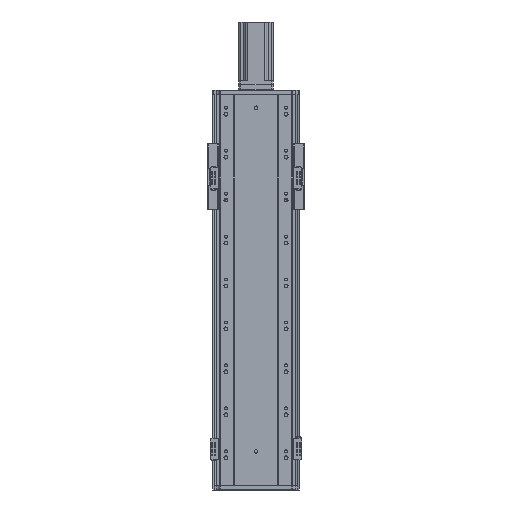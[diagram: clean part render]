
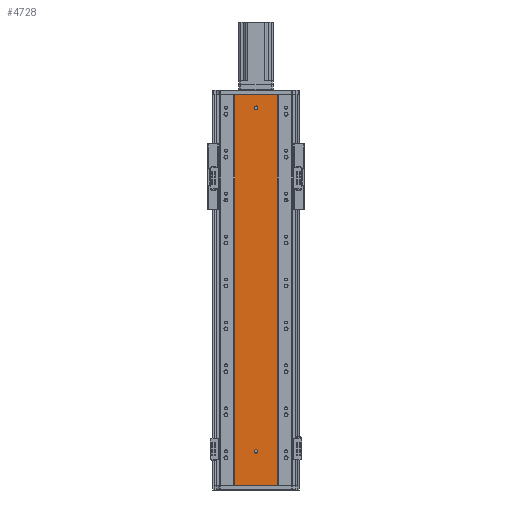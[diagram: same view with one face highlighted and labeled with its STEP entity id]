
A CAD part, front view. The second image highlights one B-rep face of the part: STEP entity #4728.
In plain terms, the highlighted planar face has unit normal (0, -1, 0).
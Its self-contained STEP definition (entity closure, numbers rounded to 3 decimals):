
#1284 = CARTESIAN_POINT ( 'NONE',  ( 185.97, 79.476, 0. ) ) ;
#1292 = CARTESIAN_POINT ( 'NONE',  ( 185.97, 79.476, 910. ) ) ;
#1342 = CARTESIAN_POINT ( 'NONE',  ( 86.97, 79.476, 910. ) ) ;
#1352 = CARTESIAN_POINT ( 'NONE',  ( 86.97, 79.476, 0. ) ) ;
#4728 = ADVANCED_FACE ( 'NONE', ( #41032, #41023, #41026 ), #6083, .F. ) ;
#5366 = VERTEX_POINT ( 'NONE', #1284 ) ;
#5386 = VERTEX_POINT ( 'NONE', #1292 ) ;
#5437 = VERTEX_POINT ( 'NONE', #1352 ) ;
#5454 = VERTEX_POINT ( 'NONE', #1342 ) ;
#6053 = DIRECTION ( 'NONE',  ( 0., 1., 0. ) ) ;
#6075 = CARTESIAN_POINT ( 'NONE',  ( 0., 79.476, 910. ) ) ;
#6083 = PLANE ( 'NONE',  #34578 ) ;
#6094 = DIRECTION ( 'NONE',  ( 0., 0., 1. ) ) ;
#7233 = B_SPLINE_CURVE_WITH_KNOTS ( 'NONE', 3,
 ( #35702, #35705, #35667, #35668 ),
 .UNSPECIFIED., .F., .F.,
 ( 4, 4 ),
 ( 0., 1. ),
 .UNSPECIFIED. ) ;
#7267 = B_SPLINE_CURVE_WITH_KNOTS ( 'NONE', 3,
 ( #35671, #35690, #35676, #35683 ),
 .UNSPECIFIED., .F., .F.,
 ( 4, 4 ),
 ( 0., 1. ),
 .UNSPECIFIED. ) ;
#8103 = EDGE_LOOP ( 'NONE', ( #16102, #17237 ) ) ;
#8117 = EDGE_LOOP ( 'NONE', ( #17266, #17241 ) ) ;
#8123 = EDGE_LOOP ( 'NONE', ( #16098, #16073, #16087, #16070 ) ) ;
#11639 = EDGE_CURVE ( 'NONE', #24763, #24664, #21205, .T. ) ;
#13092 = DIRECTION ( 'NONE',  ( 0., 0., -1. ) ) ;
#13107 = CARTESIAN_POINT ( 'NONE',  ( 136.47, 79.476, 880. ) ) ;
#13108 = DIRECTION ( 'NONE',  ( 0., -1., 0. ) ) ;
#13132 = DIRECTION ( 'NONE',  ( 0., -1., 0. ) ) ;
#13161 = CARTESIAN_POINT ( 'NONE',  ( 136.47, 79.476, 80. ) ) ;
#13166 = DIRECTION ( 'NONE',  ( 0., 0., -1. ) ) ;
#16070 = ORIENTED_EDGE ( 'NONE', *, *, #22908, .T. ) ;
#16073 = ORIENTED_EDGE ( 'NONE', *, *, #22913, .F. ) ;
#16087 = ORIENTED_EDGE ( 'NONE', *, *, #22921, .F. ) ;
#16098 = ORIENTED_EDGE ( 'NONE', *, *, #22832, .T. ) ;
#16102 = ORIENTED_EDGE ( 'NONE', *, *, #11639, .F. ) ;
#17237 = ORIENTED_EDGE ( 'NONE', *, *, #30363, .F. ) ;
#17241 = ORIENTED_EDGE ( 'NONE', *, *, #30339, .F. ) ;
#17266 = ORIENTED_EDGE ( 'NONE', *, *, #22895, .F. ) ;
#21205 = CIRCLE ( 'NONE', #37880, 4. ) ;
#22832 = EDGE_CURVE ( 'NONE', #5437, #5366, #40607, .T. ) ;
#22895 = EDGE_CURVE ( 'NONE', #24730, #24740, #40763, .T. ) ;
#22908 = EDGE_CURVE ( 'NONE', #5454, #5437, #7267, .T. ) ;
#22913 = EDGE_CURVE ( 'NONE', #5386, #5366, #7233, .T. ) ;
#22921 = EDGE_CURVE ( 'NONE', #5454, #5386, #40776, .T. ) ;
#23222 = CIRCLE ( 'NONE', #35629, 4. ) ;
#23298 = CIRCLE ( 'NONE', #35709, 4. ) ;
#24471 = CARTESIAN_POINT ( 'NONE',  ( 136.47, 79.476, 80. ) ) ;
#24543 = DIRECTION ( 'NONE',  ( 0., -1., 0. ) ) ;
#24544 = DIRECTION ( 'NONE',  ( 0., 0., -1. ) ) ;
#24664 = VERTEX_POINT ( 'NONE', #26474 ) ;
#24730 = VERTEX_POINT ( 'NONE', #26511 ) ;
#24740 = VERTEX_POINT ( 'NONE', #26523 ) ;
#24763 = VERTEX_POINT ( 'NONE', #26499 ) ;
#26474 = CARTESIAN_POINT ( 'NONE',  ( 136.47, 79.476, 84. ) ) ;
#26499 = CARTESIAN_POINT ( 'NONE',  ( 136.47, 79.476, 76. ) ) ;
#26511 = CARTESIAN_POINT ( 'NONE',  ( 136.47, 79.476, 876. ) ) ;
#26523 = CARTESIAN_POINT ( 'NONE',  ( 136.47, 79.476, 884. ) ) ;
#30339 = EDGE_CURVE ( 'NONE', #24740, #24730, #23222, .T. ) ;
#30363 = EDGE_CURVE ( 'NONE', #24664, #24763, #23298, .T. ) ;
#34578 = AXIS2_PLACEMENT_3D ( 'NONE', #6075, #6053, #6094 ) ;
#35060 = AXIS2_PLACEMENT_3D ( 'NONE', #35617, #35655, #35647 ) ;
#35303 = CARTESIAN_POINT ( 'NONE',  ( 0., 79.476, 0. ) ) ;
#35326 = DIRECTION ( 'NONE',  ( 1., 0., 0. ) ) ;
#35617 = CARTESIAN_POINT ( 'NONE',  ( 136.47, 79.476, 880. ) ) ;
#35629 = AXIS2_PLACEMENT_3D ( 'NONE', #13107, #13108, #13092 ) ;
#35647 = DIRECTION ( 'NONE',  ( 0., 0., -1. ) ) ;
#35655 = DIRECTION ( 'NONE',  ( 0., -1., 0. ) ) ;
#35667 = CARTESIAN_POINT ( 'NONE',  ( 185.97, 79.476, 303.333 ) ) ;
#35668 = CARTESIAN_POINT ( 'NONE',  ( 185.97, 79.476, 0. ) ) ;
#35671 = CARTESIAN_POINT ( 'NONE',  ( 86.97, 79.476, 910. ) ) ;
#35676 = CARTESIAN_POINT ( 'NONE',  ( 86.97, 79.476, 303.333 ) ) ;
#35683 = CARTESIAN_POINT ( 'NONE',  ( 86.97, 79.476, 0. ) ) ;
#35690 = CARTESIAN_POINT ( 'NONE',  ( 86.97, 79.476, 606.667 ) ) ;
#35702 = CARTESIAN_POINT ( 'NONE',  ( 185.97, 79.476, 910. ) ) ;
#35705 = CARTESIAN_POINT ( 'NONE',  ( 185.97, 79.476, 606.667 ) ) ;
#35709 = AXIS2_PLACEMENT_3D ( 'NONE', #13161, #13132, #13166 ) ;
#35781 = CARTESIAN_POINT ( 'NONE',  ( 0., 79.476, 910. ) ) ;
#35792 = DIRECTION ( 'NONE',  ( 1., 0., 0. ) ) ;
#37880 = AXIS2_PLACEMENT_3D ( 'NONE', #24471, #24543, #24544 ) ;
#40607 = LINE ( 'NONE', #35303, #40615 ) ;
#40615 = VECTOR ( 'NONE', #35326, 1000. ) ;
#40763 = CIRCLE ( 'NONE', #35060, 4. ) ;
#40776 = LINE ( 'NONE', #35781, #40843 ) ;
#40843 = VECTOR ( 'NONE', #35792, 1000. ) ;
#41023 = FACE_BOUND ( 'NONE', #8103, .T. ) ;
#41026 = FACE_OUTER_BOUND ( 'NONE', #8123, .T. ) ;
#41032 = FACE_BOUND ( 'NONE', #8117, .T. ) ;
